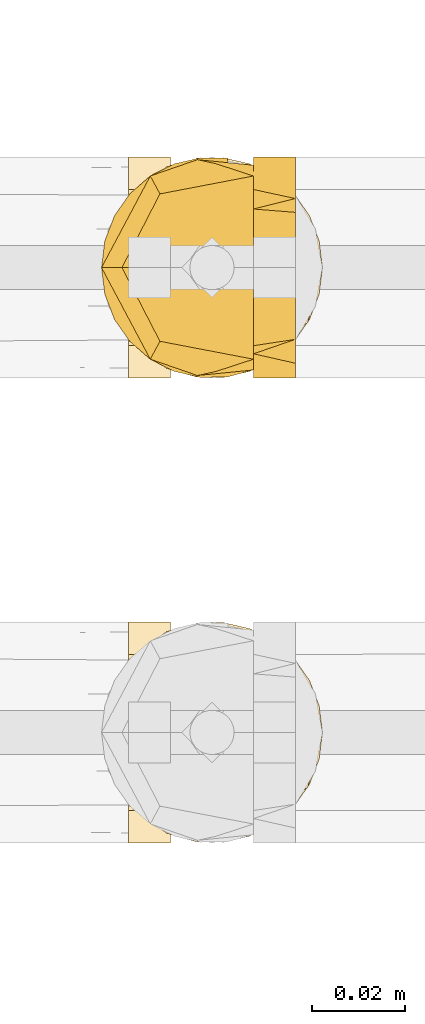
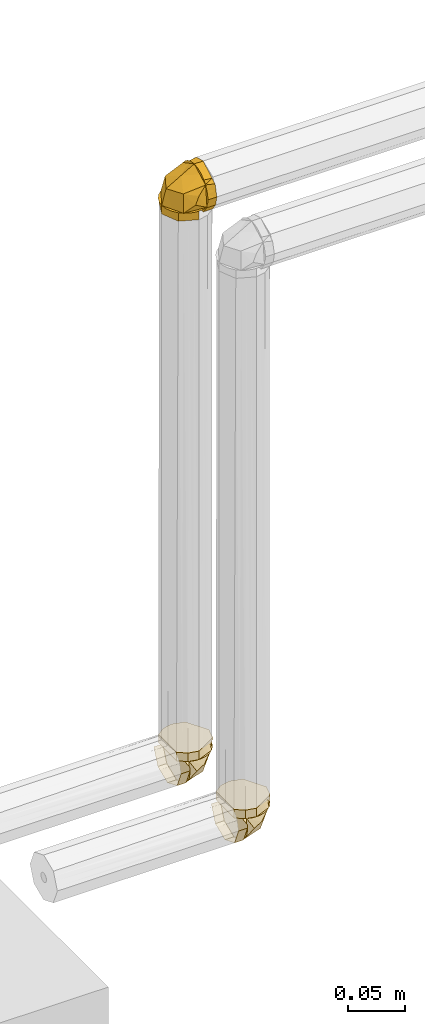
# One storey, part 325 of 652: 3 coverings.
"""IFC2X3 building model written with IfcOpenShell, lengths in millimetres."""

import ifcopenshell
import ifcopenshell.guid

model = None  # the IFC model being written
_history = None  # IfcOwnerHistory: only IFC2X3 demands one
_inside = {}  # id of a spatial element -> (the spatial element, [elements in it])
_under = {}  # id of a project, library or spatial element -> (it, [spatial elements below it])
_declared = {}  # id of a project -> (the project, [libraries it declares])
_typed = {}  # id of a type object -> (the type object, [elements of that type])
_made_of = {}  # id of a material, layer set ... -> (it, [elements and type objects made of it])


def new_model(schema):
    """Start an empty IFC model of exactly this schema.

    Asked for "IFC4X3", IfcOpenShell would pick the latest addendum, in which some entities
    have other attributes; the version numbers below select the first issue.
    IFC2X3 requires an IfcOwnerHistory on every rooted entity: one is made here for all.
    """
    global model, _history
    if schema == "IFC4X3":
        model = ifcopenshell.file(schema_version=(4, 3, 0, 0))
    else:
        model = ifcopenshell.file(schema=schema)
    _inside.clear()
    _under.clear()
    _declared.clear()
    _typed.clear()
    _made_of.clear()
    _history = None
    if model.schema == "IFC2X3":
        org = make("IfcOrganization", Name="unknown")
        user = make(
            "IfcPersonAndOrganization",
            ThePerson=make("IfcPerson", FamilyName="unknown"),
            TheOrganization=org,
        )
        app = make(
            "IfcApplication",
            ApplicationDeveloper=org,
            Version="unknown",
            ApplicationFullName="unknown",
            ApplicationIdentifier="unknown",
        )
        _history = make(
            "IfcOwnerHistory",
            OwningUser=user,
            OwningApplication=app,
            ChangeAction="ADDED",
            CreationDate=0,
        )
    return model


def make(cls, **values):
    """One entity of the class cls with the attributes given. An attribute that is None is left unset."""
    return model.create_entity(
        cls, **{name: value for name, value in values.items() if value is not None}
    )


def entity(cls, *values):
    """Any entity or typed value of the class cls, its attributes in the order of the schema. None: left unset."""
    e = model.create_entity(cls)
    for i, value in enumerate(values):
        if value is not None:
            e[i] = value
    return e


def rooted(cls, **values):
    """An entity with a GlobalId (a new one), such as an element, a storey or a relation."""
    return make(cls, GlobalId=ifcopenshell.guid.new(), OwnerHistory=_history, **values)


def si_unit(unit_type, name, prefix=None):
    """IfcSIUnit, for example si_unit("LENGTHUNIT", "METRE", prefix="MILLI")."""
    return make("IfcSIUnit", UnitType=unit_type, Prefix=prefix, Name=name)


def converted_unit(unit_type, name, factor, base, dimensions=None, offset=None):
    """IfcConversionBasedUnit, such as the inch: factor (a typed value) times the base unit."""
    return make(
        "IfcConversionBasedUnit"
        if offset is None
        else "IfcConversionBasedUnitWithOffset",
        ConversionOffset=offset,
        Dimensions=None
        if dimensions is None
        else entity("IfcDimensionalExponents", *dimensions),
        UnitType=unit_type,
        Name=name,
        ConversionFactor=make(
            "IfcMeasureWithUnit", ValueComponent=factor, UnitComponent=base
        ),
    )


def assignment(units):
    """IfcUnitAssignment: the units of a project."""
    return None if units is None else make("IfcUnitAssignment", Units=units)


def point(xyz):
    """IfcCartesianPoint."""
    return None if xyz is None else make("IfcCartesianPoint", Coordinates=xyz)


def direction(xyz):
    """IfcDirection."""
    return None if xyz is None else make("IfcDirection", DirectionRatios=xyz)


def frame(location, z_axis=None, x_axis=None):
    """IfcAxis2Placement3D, a coordinate frame: its origin and axes. An axis left out is left unset."""
    return make(
        "IfcAxis2Placement3D",
        Location=point(location),
        Axis=direction(z_axis),
        RefDirection=direction(x_axis),
    )


def origin():
    """The frame at (0, 0, 0) with its axes left unset."""
    return frame((0.0, 0.0, 0.0))


def place(relative_to, where):
    """IfcLocalPlacement: puts the frame where relative to a parent placement (None: the world)."""
    return make(
        "IfcLocalPlacement", PlacementRelTo=relative_to, RelativePlacement=where
    )


def context(
    kind, dimensions, precision=None, world=None, true_north=None, identifier=None
):
    """IfcGeometricRepresentationContext, for example the 3D "Model" context."""
    return make(
        "IfcGeometricRepresentationContext",
        ContextIdentifier=identifier,
        ContextType=kind,
        CoordinateSpaceDimension=dimensions,
        Precision=precision,
        WorldCoordinateSystem=world,
        TrueNorth=true_north,
    )


def subcontext(parent, identifier, kind, view, scale=None):
    """IfcGeometricRepresentationSubContext, for example "Body" below "Model"."""
    return make(
        "IfcGeometricRepresentationSubContext",
        ContextIdentifier=identifier,
        ContextType=kind,
        ParentContext=parent,
        TargetScale=scale,
        TargetView=view,
    )


def project(units=None, contexts=None):
    """IfcProject with its units and contexts."""
    return rooted(
        "IfcProject",
        Name="project",
        RepresentationContexts=contexts,
        UnitsInContext=assignment(units),
    )


def spatial(cls, under=None, at=None, **own):
    """A site, building, storey or space (cls), placed at a placement, below another one or the project."""
    s = rooted(cls, ObjectPlacement=at, **own)
    if under is not None:
        _under.setdefault(under.id(), (under, []))[1].append(s)
    return s


def faces_of(points, faces, orient=None, outer=None):
    """IfcFace entities. A face is a list of loops; a loop is a list of indices into points, from 0.

    orient and outer hold one flag for each loop. By default every Orientation is true, the
    first loop of a face is its IfcFaceOuterBound and the others are IfcFaceBound.
    """
    made = []
    for i, loops in enumerate(faces):
        bounds = []
        for j, loop in enumerate(loops):
            is_outer = j == 0 if outer is None else outer[i][j]
            bounds.append(
                make(
                    "IfcFaceOuterBound" if is_outer else "IfcFaceBound",
                    Bound=make("IfcPolyLoop", Polygon=[points[k] for k in loop]),
                    Orientation=True if orient is None else orient[i][j],
                )
            )
        made.append(make("IfcFace", Bounds=bounds))
    return made


def face_set(faces, orient=None, outer=None):
    """The faces of one IfcConnectedFaceSet. surface_model builds it on its shared points."""
    return ("IfcConnectedFaceSet", faces, orient, outer)


def surface_model(cls, points, shells):
    """IfcFaceBasedSurfaceModel or IfcShellBasedSurfaceModel (cls): surfaces that need not close."""
    shared = [point(p) for p in points]
    made = [make(c, CfsFaces=faces_of(shared, fs, o, b)) for c, fs, o, b in shells]
    if cls == "IfcFaceBasedSurfaceModel":
        return make(cls, FbsmFaces=made)
    return make(cls, SbsmBoundary=made)


def shape(context_of_items, identifier, shape_type, items):
    """IfcShapeRepresentation: the items that make up one representation, for example the "Body"."""
    return make(
        "IfcShapeRepresentation",
        ContextOfItems=context_of_items,
        RepresentationIdentifier=identifier,
        RepresentationType=shape_type,
        Items=items,
    )


def material(Name=None, Category=None):
    """IfcMaterial."""
    return make("IfcMaterial", Name=Name, Category=Category)


def made_of(thing, what):
    """Note that an element or type object is made of a material, layer set ...; save() writes the relation."""
    if what is not None:
        _made_of.setdefault(what.id(), (what, []))[1].append(thing)
    return thing


def type_object(cls, material=None, **own):
    """A type object (cls), such as IfcWallType, which elements share."""
    return made_of(rooted(cls, **own), material)


def element(
    cls,
    number,
    at=None,
    inside=None,
    cuts=None,
    type_object=None,
    material=None,
    context=None,
    identifier="Body",
    shape_type=None,
    held_by="IfcProductDefinitionShape",
    body=None,
    shapes=None,
    **own,
):
    """One element of the class cls, such as IfcWall. Its Tag is "e" and its number.

    at: its placement. inside: the storey or other place that contains it. cuts: it is an
    opening in that element (IfcRelVoidsElement). A single representation is given by context,
    identifier, shape_type and body (its items); several are given by shapes. held_by: the class
    of the entity that holds the representations. save() writes the other relations.
    """
    e = rooted(cls, Tag="e%d" % number, ObjectPlacement=at, **own)
    if body is not None:
        shapes = [shape(context, identifier, shape_type, body)]
    if shapes is not None:
        e.Representation = make(held_by, Representations=shapes)
    if inside is not None:
        _inside.setdefault(inside.id(), (inside, []))[1].append(e)
    if cuts is not None:
        rooted(
            "IfcRelVoidsElement", RelatingBuildingElement=cuts, RelatedOpeningElement=e
        )
    if type_object is not None:
        _typed.setdefault(type_object.id(), (type_object, []))[1].append(e)
    return made_of(e, material)


def aggregate(whole, parts):
    """IfcRelAggregates: a whole, such as a stair, and the parts it consists of."""
    return rooted("IfcRelAggregates", RelatingObject=whole, RelatedObjects=parts)


def save(model, path):
    """Write the relations noted so far, then the file.

    IfcRelAggregates (storeys below a building ...), IfcRelContainedInSpatialStructure (elements
    in a storey), IfcRelDefinesByType, IfcRelAssociatesMaterial and IfcRelDeclares: one each for
    every whole, place, type object, material and project.
    """
    for whole, parts in _under.values():
        aggregate(whole, parts)
    for where, things in _inside.values():
        rooted(
            "IfcRelContainedInSpatialStructure",
            RelatedElements=things,
            RelatingStructure=where,
        )
    for kind, things in _typed.values():
        rooted("IfcRelDefinesByType", RelatedObjects=things, RelatingType=kind)
    for what, things in _made_of.values():
        rooted("IfcRelAssociatesMaterial", RelatedObjects=things, RelatingMaterial=what)
    for by, libraries in _declared.values():
        rooted("IfcRelDeclares", RelatingContext=by, RelatedDefinitions=libraries)
    model.write(path)


model = new_model("IFC2X3")

# Units and contexts
model_context = context("Model", 3, precision=0.01, world=frame((0.0, 0.0, 308426.39999999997)), true_north=direction((6.123233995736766e-17, 1.0)))
plan_context = context("Plan", 3, precision=0.01, world=frame((0.0, 0.0, 308426.39999999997)), true_north=direction((6.123233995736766e-17, 1.0)))
body_context = subcontext(model_context, "Body", "Model", "MODEL_VIEW")
ifc_project = project(units=[si_unit("LENGTHUNIT", "METRE", prefix="MILLI"), si_unit("AREAUNIT", "SQUARE_METRE"), si_unit("VOLUMEUNIT", "CUBIC_METRE"), converted_unit("PLANEANGLEUNIT", "DEGREE", entity("IfcPlaneAngleMeasure", 0.017453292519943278), si_unit("PLANEANGLEUNIT", "RADIAN"), dimensions=[0, 0, 0, 0, 0, 0, 0])], contexts=[model_context, plan_context])

# Site, building, storey
site_placement = place(None, origin())
site = spatial("IfcSite", under=ifc_project, at=site_placement, Name="Default", CompositionType="ELEMENT")
building_placement = place(site_placement, origin())
building = spatial("IfcBuilding", under=site, at=building_placement, CompositionType="ELEMENT")
storey_placement = place(building_placement, frame((0.0, 0.0, 1730.6999999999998)))
storey = spatial("IfcBuildingStorey", under=building, at=storey_placement, Name="EG_Produktion_FFB", CompositionType="ELEMENT", Elevation=1730.6999999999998)

# Coverings
ifc_material = material(Name="Dämmung - Armaflex-Schlauch")
covering_type = type_object("IfcCoveringType", Name="Rohrdämmung außen:Armaflex-Schlauch", PredefinedType="INSULATION")
covering_1_placement = place(storey_placement, frame((41289.97326223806, 54966.678785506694, 2674.642227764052)))
element("IfcCovering", 1, at=covering_1_placement, inside=storey, type_object=covering_type, material=ifc_material, Name="Rohrdämmung außen:Armaflex-Schlauch", ObjectType="Rohrdämmung außen:Armaflex-Schlauch", PredefinedType="INSULATION", context=body_context, shape_type="SurfaceModel", body=[
    surface_model("IfcFaceBasedSurfaceModel", [(10.458420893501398, 47.37827577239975, 34.288272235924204), (10.458420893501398, 48.88520354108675, 28.691896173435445), (10.458420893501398, 48.99253247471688, 22.89717988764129), (10.458420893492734, 47.69387779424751, 17.248839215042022), (10.458420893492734, 45.066493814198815, 12.082882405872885), (10.458420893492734, 41.266678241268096, 7.706621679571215), (10.458420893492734, 36.520474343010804, 4.38039184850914), (10.458420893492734, 31.110224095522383, 2.3020635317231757), (10.458420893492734, 25.357772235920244, 1.595272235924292), (10.458420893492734, 19.605320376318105, 2.3020635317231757), (10.458420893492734, 14.195070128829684, 4.38039184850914), (10.458420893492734, 9.44886623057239, 7.706621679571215), (10.458420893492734, 5.649050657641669, 12.082882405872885), (10.458420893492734, 3.0216666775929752, 17.248839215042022), (10.458420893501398, 1.7230119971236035, 22.89717988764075), (10.458420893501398, 1.8303409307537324, 28.691896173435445), (10.458420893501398, 3.3372686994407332, 34.288272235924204), (16.054796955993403, 1.8303409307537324, 34.28827223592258), (21.849513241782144, 1.7230119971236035, 34.28827223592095), (27.4978539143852, 3.0216666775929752, 34.28827223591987), (32.6638107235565, 5.649050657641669, 34.28827223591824), (37.040071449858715, 9.44886623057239, 34.28827223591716), (40.36630128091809, 14.195070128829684, 34.28827223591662), (42.44462959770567, 19.605320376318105, 34.288272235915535), (43.151420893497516, 25.357772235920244, 34.288272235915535), (42.44462959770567, 31.110224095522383, 34.288272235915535), (40.36630128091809, 36.520474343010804, 34.28827223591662), (37.04007144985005, 41.266678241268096, 34.28827223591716), (32.6638107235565, 45.066493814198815, 34.28827223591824), (27.4978539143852, 47.69387779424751, 34.28827223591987), (21.849513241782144, 48.99253247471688, 34.28827223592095), (16.054796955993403, 48.88520354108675, 34.28827223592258), (25.36536080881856, 47.71668568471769, 26.166056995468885), (27.88148629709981, 41.21475697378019, 14.151674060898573), (21.43071725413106, 46.23770619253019, 34.28823564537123), (10.45929391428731, 35.09885121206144, 6.77828691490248), (26.80713326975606, 25.359910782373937, 5.975428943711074), (37.90878121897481, 35.210472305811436, 34.28823564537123), (35.60659616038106, 25.359910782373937, 21.22013795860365), (17.53793160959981, 48.57709828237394, 22.222983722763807), (10.45929391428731, 46.223753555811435, 23.18571565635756), (25.36536080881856, 2.998485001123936, 26.166056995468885), (17.53793160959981, 2.138072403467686, 22.222983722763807), (27.88148629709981, 9.500413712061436, 14.151674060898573), (10.45929391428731, 15.616319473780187, 6.77828691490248), (21.43071725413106, 4.4774644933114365, 34.28823564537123), (37.96924264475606, 15.616319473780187, 34.28823564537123), (34.97872750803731, 25.359910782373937, 20.13183229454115), (10.45929391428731, 4.491417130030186, 23.18571565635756), (1.4365888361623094, 49.12125111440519, 25.35767610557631), (10.45929391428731, 49.12125111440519, 25.35767610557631), (10.45929391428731, 42.15888539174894, 8.555213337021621), (1.4365888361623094, 42.15888539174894, 8.555213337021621), (10.45929391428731, 25.359910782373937, 1.5951730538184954), (1.4365888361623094, 25.359910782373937, 1.5951730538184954), (10.45929391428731, 8.556285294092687, 8.555213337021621), (1.4365888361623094, 8.556285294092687, 8.555213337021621), (10.45929391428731, 1.593919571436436, 25.35767610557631), (1.4365888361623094, 1.593919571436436, 25.35767610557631), (24.53365305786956, 4.565584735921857, 43.3080222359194), (29.67838522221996, 7.5358972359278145, 43.308022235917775), (34.82311738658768, 10.50620973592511, 43.30802223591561), (39.967849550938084, 13.476522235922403, 43.30802223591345), (41.55963522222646, 19.417147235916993, 43.30802223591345), (43.15142089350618, 25.357772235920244, 43.30802223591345), (40.181108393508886, 30.502504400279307, 43.30802223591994), (37.210795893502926, 35.6472365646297, 43.308022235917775), (34.240483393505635, 40.79196872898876, 43.30802223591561), (31.27017089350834, 45.936700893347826, 43.30802223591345), (25.32954589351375, 47.528486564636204, 43.30802223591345), (19.388920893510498, 49.12027223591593, 43.30802223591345), (14.510241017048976, 48.07242355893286, 43.308022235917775), (9.631561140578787, 47.024574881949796, 43.30802223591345), (5.6134166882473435, 44.06585567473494, 43.30802223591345), (1.5952722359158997, 41.10713646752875, 43.30802223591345), (1.5952722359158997, 9.608408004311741, 43.30802223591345), (5.6134166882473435, 6.649688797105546, 43.308022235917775), (9.631561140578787, 3.690969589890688, 43.30802223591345), (14.510241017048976, 2.643120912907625, 43.30802223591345), (19.388920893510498, 1.5952722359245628, 43.30802223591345), (36.19154578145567, 8.55514734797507, 34.2882722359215), (31.990889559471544, 6.81517856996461, 34.2882722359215), (27.790233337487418, 5.075209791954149, 34.2882722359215), (23.58957711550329, 3.335241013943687, 34.28827223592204), (19.388920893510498, 1.5952722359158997, 34.2882722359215), (14.510241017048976, 2.643120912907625, 34.2882722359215), (9.631561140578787, 3.690969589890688, 34.2882722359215), (5.50479750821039, 6.729669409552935, 34.2882722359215), (1.5952722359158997, 9.608408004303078, 34.2882722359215), (1.5952722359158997, 41.10713646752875, 34.2882722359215), (5.6134166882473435, 44.06585567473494, 34.2882722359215), (9.631561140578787, 47.024574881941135, 34.2882722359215), (14.642122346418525, 48.10074918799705, 34.2882722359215), (19.388920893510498, 49.12027223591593, 34.2882722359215), (23.58957711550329, 47.38030345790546, 34.2882722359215), (27.790233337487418, 45.64033467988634, 34.2882722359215), (31.990889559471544, 43.90036590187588, 34.2882722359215), (36.19154578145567, 42.160397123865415, 34.2882722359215), (37.93151455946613, 37.95974090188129, 34.2882722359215), (39.671483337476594, 33.759084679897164, 34.2882722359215), (41.41145211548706, 29.55842845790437, 34.2882722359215), (43.15142089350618, 25.357772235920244, 34.2882722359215), (41.41145211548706, 21.157116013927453, 34.2882722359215), (39.671483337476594, 16.956459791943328, 34.2882722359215), (37.93151455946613, 12.755803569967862, 34.2882722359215)], [face_set([[[0, 1, 2, 3, 4, 5, 6, 7, 8, 9, 10, 11, 12, 13, 14, 15]], [[16, 17, 18, 19, 20, 21, 22, 23, 24, 25, 26, 27, 28, 29, 30, 31]], [[32, 28, 33]], [[32, 34, 28]], [[33, 35, 4]], [[35, 33, 36]], [[36, 8, 35]], [[33, 37, 38]], [[39, 4, 40]], [[32, 33, 39]], [[34, 32, 0]], [[4, 39, 33]], [[38, 36, 33]], [[0, 32, 39]], [[33, 28, 37]], [[37, 24, 38]], [[0, 39, 40]], [[41, 16, 42]], [[43, 44, 36]], [[20, 45, 41]], [[46, 43, 47]], [[44, 8, 36]], [[12, 43, 42]], [[44, 43, 12]], [[42, 16, 48]], [[20, 43, 46]], [[16, 41, 45]], [[43, 41, 42]], [[43, 36, 47]], [[47, 24, 46]], [[20, 41, 43]], [[48, 12, 42]]]), face_set([[[49, 50, 51, 52]], [[53, 54, 52, 51]], [[54, 53, 55, 56]], [[57, 58, 56, 55]]]), face_set([[[59, 60, 61, 62, 63, 64, 65, 66, 67, 68, 69, 70, 71, 72, 73, 74, 75, 76, 77, 78, 79]], [[80, 81, 82, 83, 84, 85, 86, 87, 88, 89, 90, 91, 92, 93, 94, 95, 96, 97, 98, 99, 100, 101, 102, 103, 104]], [[75, 74, 89, 88]], [[71, 70, 93, 92, 91, 72]], [[73, 72, 91, 90, 89, 74]], [[96, 67, 97]], [[64, 100, 65]], [[100, 99, 65]], [[69, 95, 94]], [[94, 93, 70]], [[67, 96, 68]], [[66, 99, 98]], [[64, 101, 100]], [[99, 66, 65]], [[70, 69, 94]], [[98, 97, 67]], [[96, 95, 68]], [[69, 68, 95]], [[66, 98, 67]], [[104, 61, 80]], [[79, 83, 59]], [[83, 82, 59]], [[63, 103, 102]], [[102, 101, 64]], [[61, 104, 62]], [[60, 82, 81]], [[79, 84, 83]], [[82, 60, 59]], [[64, 63, 102]], [[81, 80, 61]], [[104, 103, 62]], [[63, 62, 103]], [[60, 81, 61]], [[76, 75, 88, 87, 86, 77]], [[78, 77, 86, 85, 84, 79]]])]),
])
covering_2_placement = place(storey_placement, frame((41284.00441089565, 54966.67878550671, 3280.611079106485)))
element("IfcCovering", 2, at=covering_2_placement, inside=storey, type_object=covering_type, material=ifc_material, Name="Rohrdämmung außen:Armaflex-Schlauch", ObjectType="Rohrdämmung außen:Armaflex-Schlauch", PredefinedType="INSULATION", context=body_context, shape_type="SurfaceModel", body=[
    surface_model("IfcFaceBasedSurfaceModel", [(34.28827223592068, 3.3372686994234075, 10.458420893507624), (28.691896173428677, 1.8303409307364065, 10.458420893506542), (22.897179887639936, 1.7230119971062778, 10.458420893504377), (17.248839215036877, 3.0216666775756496, 10.458420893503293), (12.082882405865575, 5.649050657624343, 10.45842089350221), (7.706621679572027, 9.448866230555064, 10.458420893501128), (4.380391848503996, 14.19507012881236, 10.458420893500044), (2.3020635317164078, 19.605320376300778, 10.458420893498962), (1.5952722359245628, 25.357772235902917, 10.458420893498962), (2.3020635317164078, 31.110224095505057, 10.458420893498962), (4.380391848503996, 36.520474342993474, 10.458420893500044), (7.706621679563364, 41.26667824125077, 10.458420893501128), (12.082882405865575, 45.06649381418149, 10.45842089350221), (17.248839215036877, 47.69387779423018, 10.458420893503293), (22.897179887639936, 48.99253247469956, 10.458420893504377), (28.691896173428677, 48.88520354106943, 10.458420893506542), (34.28827223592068, 47.37827577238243, 10.458420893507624), (34.28827223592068, 1.8303409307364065, 16.05479695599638), (34.28827223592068, 1.7230119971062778, 21.849513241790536), (34.28827223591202, 3.0216666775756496, 27.49785391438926), (34.28827223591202, 5.649050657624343, 32.6638107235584), (34.28827223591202, 9.448866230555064, 37.04007144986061), (34.28827223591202, 14.19507012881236, 40.366301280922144), (34.28827223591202, 19.605320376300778, 42.44462959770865), (34.28827223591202, 25.357772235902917, 43.151420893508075), (34.28827223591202, 31.110224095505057, 42.44462959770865), (34.28827223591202, 36.520474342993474, 40.366301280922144), (34.28827223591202, 41.26667824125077, 37.04007144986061), (34.28827223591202, 45.06649381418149, 32.66381072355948), (34.28827223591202, 47.69387779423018, 27.497853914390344), (34.28827223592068, 48.99253247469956, 21.849513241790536), (34.28827223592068, 48.88520354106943, 16.05479695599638), (26.167085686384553, 2.99848500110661, 25.365208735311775), (14.153865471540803, 9.50041371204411, 27.87959014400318), (34.28752025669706, 4.47746449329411, 21.43230926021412), (6.777571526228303, 15.61631947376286, 10.458560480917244), (5.977620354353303, 25.35991078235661, 26.80465575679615), (34.28752025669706, 15.504698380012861, 37.90746642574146), (21.218550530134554, 25.35991078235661, 35.606444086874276), (22.223140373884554, 2.13807240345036, 17.53836089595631), (23.185872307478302, 4.49141713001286, 10.458560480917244), (26.167085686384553, 47.71668568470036, 25.365208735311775), (22.223140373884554, 48.57709828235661, 17.53836089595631), (14.153865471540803, 41.21475697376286, 27.87959014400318), (6.777571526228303, 35.09885121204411, 10.458560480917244), (34.28752025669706, 46.23770619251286, 21.43230926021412), (34.28752025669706, 35.09885121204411, 37.96850921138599), (20.130244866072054, 25.35991078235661, 34.977994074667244), (23.185872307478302, 46.22375355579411, 10.458560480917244), (25.357832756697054, 1.5939195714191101, 1.4387622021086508), (25.357832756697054, 1.5939195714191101, 10.458560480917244), (8.554207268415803, 8.55628529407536, 10.458560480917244), (8.554207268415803, 8.55628529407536, 1.4387622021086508), (1.596492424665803, 25.35991078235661, 10.458560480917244), (1.596492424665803, 25.35991078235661, 1.4387622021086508), (8.554207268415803, 42.15888539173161, 10.458560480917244), (8.554207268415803, 42.15888539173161, 1.4387622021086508), (25.357832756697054, 49.12125111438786, 10.458560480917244), (25.357832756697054, 49.12125111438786, 1.4387622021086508), (43.30802223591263, 46.149959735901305, 24.533653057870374), (43.30802223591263, 43.179647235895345, 29.67838522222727), (43.30802223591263, 40.209334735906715, 34.823117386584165), (43.30802223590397, 37.239022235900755, 39.96784955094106), (43.30802223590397, 31.29839723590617, 41.55963522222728), (43.30802223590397, 25.357772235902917, 43.15142089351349), (43.30802223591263, 20.213040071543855, 40.18110839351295), (43.30802223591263, 15.068307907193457, 37.210795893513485), (43.30802223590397, 9.923575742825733, 34.240483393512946), (43.30802223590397, 4.7788435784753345, 31.270170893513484), (43.30802223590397, 3.1870579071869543, 25.32954589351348), (43.30802223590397, 1.5952722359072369, 19.38892089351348), (43.30802223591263, 2.6431209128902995, 14.510241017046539), (43.30802223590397, 3.6909695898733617, 9.631561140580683), (43.30802223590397, 6.64968879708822, 5.613416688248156), (43.30802223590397, 9.608408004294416, 1.595272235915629), (43.30802223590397, 41.10713646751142, 1.595272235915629), (43.30802223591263, 44.06585567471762, 5.613416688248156), (43.30802223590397, 47.02457488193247, 9.631561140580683), (43.30802223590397, 48.07242355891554, 14.510241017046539), (43.30802223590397, 49.1202722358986, 19.38892089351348), (34.28827223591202, 42.16039712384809, 36.19154578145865), (34.28827223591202, 43.90036590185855, 31.990889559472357), (34.28827223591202, 45.640334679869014, 27.790233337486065), (34.28827223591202, 47.3803034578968, 23.589577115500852), (34.28827223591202, 49.12027223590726, 19.38892089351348), (34.28827223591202, 48.07242355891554, 14.510241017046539), (34.28827223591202, 47.02457488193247, 9.6315611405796), (34.28827223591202, 43.98587506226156, 5.5047975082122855), (34.28827223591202, 41.107136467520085, 1.595272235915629), (34.28827223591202, 9.608408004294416, 1.595272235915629), (34.28827223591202, 6.64968879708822, 5.613416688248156), (34.28827223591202, 3.690969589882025, 9.6315611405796), (34.28827223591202, 2.614795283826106, 14.64212234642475), (34.28827223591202, 1.5952722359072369, 19.38892089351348), (34.28827223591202, 3.3352410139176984, 23.58957711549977), (34.28827223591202, 5.075209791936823, 27.790233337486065), (34.28827223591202, 6.815178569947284, 31.990889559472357), (34.28827223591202, 8.555147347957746, 36.19154578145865), (34.28827223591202, 12.755803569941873, 37.93151455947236), (34.28827223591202, 16.956459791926, 39.67148333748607), (34.28827223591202, 21.157116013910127, 41.41145211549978), (34.28827223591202, 25.357772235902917, 43.15142089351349), (34.28827223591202, 29.558428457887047, 41.41145211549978), (34.28827223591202, 33.759084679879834, 39.67148333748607), (34.28827223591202, 37.95974090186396, 37.93151455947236)], [face_set([[[0, 1, 2, 3, 4, 5, 6, 7, 8, 9, 10, 11, 12, 13, 14, 15]], [[16, 17, 18, 19, 20, 21, 22, 23, 24, 25, 26, 27, 28, 29, 30, 31]], [[32, 20, 33]], [[32, 34, 20]], [[33, 35, 4]], [[35, 33, 36]], [[36, 8, 35]], [[33, 37, 38]], [[39, 4, 40]], [[32, 33, 39]], [[34, 32, 0]], [[4, 39, 33]], [[38, 36, 33]], [[0, 32, 39]], [[33, 20, 37]], [[37, 24, 38]], [[0, 39, 40]], [[41, 16, 42]], [[43, 44, 36]], [[28, 45, 41]], [[46, 43, 47]], [[44, 8, 36]], [[12, 43, 42]], [[44, 43, 12]], [[42, 16, 48]], [[28, 43, 46]], [[16, 41, 45]], [[43, 41, 42]], [[43, 36, 47]], [[47, 24, 46]], [[28, 41, 43]], [[48, 12, 42]]]), face_set([[[49, 50, 51, 52]], [[53, 54, 52, 51]], [[54, 53, 55, 56]], [[57, 58, 56, 55]]]), face_set([[[59, 60, 61, 62, 63, 64, 65, 66, 67, 68, 69, 70, 71, 72, 73, 74, 75, 76, 77, 78, 79]], [[80, 81, 82, 83, 84, 85, 86, 87, 88, 89, 90, 91, 92, 93, 94, 95, 96, 97, 98, 99, 100, 101, 102, 103, 104]], [[75, 74, 89, 88]], [[71, 70, 93, 92, 91, 72]], [[73, 72, 91, 90, 89, 74]], [[96, 67, 97]], [[64, 100, 65]], [[100, 99, 65]], [[69, 95, 94]], [[94, 93, 70]], [[67, 96, 68]], [[66, 99, 98]], [[64, 101, 100]], [[99, 66, 65]], [[70, 69, 94]], [[98, 97, 67]], [[96, 95, 68]], [[69, 68, 95]], [[66, 98, 67]], [[104, 61, 80]], [[79, 83, 59]], [[83, 82, 59]], [[63, 103, 102]], [[102, 101, 64]], [[61, 104, 62]], [[60, 82, 81]], [[79, 84, 83]], [[82, 60, 59]], [[64, 63, 102]], [[81, 80, 61]], [[104, 103, 62]], [[63, 62, 103]], [[60, 81, 61]], [[76, 75, 88, 87, 86, 77]], [[78, 77, 86, 85, 84, 79]]])]),
])
covering_3_placement = place(storey_placement, frame((41289.97326223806, 54866.678785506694, 2674.6422277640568)))
element("IfcCovering", 3, at=covering_3_placement, inside=storey, type_object=covering_type, material=ifc_material, Name="Rohrdämmung außen:Armaflex-Schlauch", ObjectType="Rohrdämmung außen:Armaflex-Schlauch", PredefinedType="INSULATION", context=body_context, shape_type="SurfaceModel", body=[
    surface_model("IfcFaceBasedSurfaceModel", [(10.458420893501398, 47.37827577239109, 34.288272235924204), (10.458420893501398, 48.88520354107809, 28.691896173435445), (10.458420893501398, 48.99253247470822, 22.89717988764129), (10.458420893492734, 47.69387779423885, 17.248839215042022), (10.458420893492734, 45.06649381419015, 12.082882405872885), (10.458420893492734, 41.266678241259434, 7.706621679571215), (10.458420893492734, 36.52047434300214, 4.38039184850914), (10.458420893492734, 31.11022409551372, 2.3020635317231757), (10.458420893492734, 25.35777223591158, 1.595272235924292), (10.458420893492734, 19.605320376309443, 2.3020635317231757), (10.458420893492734, 14.19507012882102, 4.38039184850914), (10.458420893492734, 9.448866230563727, 7.706621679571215), (10.458420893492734, 5.649050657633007, 12.082882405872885), (10.458420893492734, 3.0216666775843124, 17.248839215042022), (10.458420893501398, 1.7230119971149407, 22.89717988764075), (10.458420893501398, 1.8303409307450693, 28.691896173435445), (10.458420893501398, 3.3372686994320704, 34.288272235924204), (16.054796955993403, 1.8303409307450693, 34.28827223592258), (21.849513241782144, 1.7230119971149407, 34.28827223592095), (27.4978539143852, 3.0216666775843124, 34.28827223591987), (32.6638107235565, 5.649050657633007, 34.28827223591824), (37.040071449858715, 9.448866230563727, 34.28827223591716), (40.36630128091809, 14.19507012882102, 34.28827223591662), (42.44462959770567, 19.605320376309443, 34.288272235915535), (43.151420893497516, 25.35777223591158, 34.288272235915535), (42.44462959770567, 31.11022409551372, 34.288272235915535), (40.36630128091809, 36.52047434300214, 34.28827223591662), (37.04007144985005, 41.266678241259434, 34.28827223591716), (32.6638107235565, 45.06649381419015, 34.28827223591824), (27.4978539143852, 47.69387779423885, 34.28827223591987), (21.849513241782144, 48.99253247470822, 34.28827223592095), (16.054796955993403, 48.88520354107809, 34.28827223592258), (25.36536080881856, 47.71813832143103, 26.166056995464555), (27.88148629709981, 41.21620961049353, 14.151674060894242), (21.43071725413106, 46.234507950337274, 34.288235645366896), (10.45929391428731, 35.095652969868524, 6.778286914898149), (26.80713326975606, 25.356712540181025, 5.975428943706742), (37.90878121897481, 35.211924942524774, 34.288235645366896), (35.60659616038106, 25.356712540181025, 21.22013795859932), (17.53793160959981, 48.57390004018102, 22.222983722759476), (10.45929391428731, 46.220555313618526, 23.185715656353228), (25.36536080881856, 2.9999376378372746, 26.166056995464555), (17.53793160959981, 2.1395250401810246, 22.222983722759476), (27.88148629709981, 9.497215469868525, 14.151674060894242), (10.45929391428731, 15.617772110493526, 6.778286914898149), (21.43071725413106, 4.478917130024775, 34.288235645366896), (37.96924264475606, 15.617772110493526, 34.288235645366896), (34.97872750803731, 25.356712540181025, 20.13183229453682), (10.45929391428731, 4.4928697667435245, 23.185715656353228), (1.4365888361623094, 49.118052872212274, 25.357676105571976), (10.45929391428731, 49.118052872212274, 25.357676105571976), (10.45929391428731, 42.16033802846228, 8.555213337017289), (1.4365888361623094, 42.16033802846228, 8.555213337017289), (10.45929391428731, 25.356712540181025, 1.595173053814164), (1.4365888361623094, 25.356712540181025, 1.595173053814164), (10.45929391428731, 8.553087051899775, 8.555213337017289), (1.4365888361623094, 8.553087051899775, 8.555213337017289), (10.45929391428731, 1.5953722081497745, 25.357676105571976), (1.4365888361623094, 1.5953722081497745, 25.357676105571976), (24.53365305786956, 4.565584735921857, 43.3080222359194), (29.67838522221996, 7.535897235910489, 43.308022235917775), (34.82311738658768, 10.506209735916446, 43.30802223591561), (39.967849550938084, 13.47652223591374, 43.30802223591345), (41.55963522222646, 19.417147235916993, 43.30802223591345), (43.15142089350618, 25.35777223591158, 43.30802223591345), (40.181108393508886, 30.50250440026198, 43.30802223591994), (37.210795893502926, 35.6472365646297, 43.308022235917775), (34.240483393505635, 40.7919687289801, 43.30802223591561), (31.27017089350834, 45.936700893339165, 43.30802223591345), (25.32954589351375, 47.52848656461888, 43.30802223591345), (19.388920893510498, 49.12027223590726, 43.30802223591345), (14.510241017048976, 48.0724235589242, 43.308022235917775), (9.631561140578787, 47.024574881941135, 43.30802223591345), (5.6134166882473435, 44.06585567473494, 43.30802223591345), (1.5952722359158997, 41.107136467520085, 43.30802223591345), (1.5952722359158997, 9.608408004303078, 43.30802223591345), (5.6134166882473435, 6.64968879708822, 43.308022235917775), (9.631561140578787, 3.690969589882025, 43.30802223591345), (14.510241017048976, 2.6431209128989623, 43.30802223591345), (19.388920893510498, 1.5952722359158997, 43.30802223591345), (36.19154578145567, 8.55514734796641, 34.2882722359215), (31.990889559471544, 6.815178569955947, 34.2882722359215), (27.790233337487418, 5.075209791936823, 34.2882722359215), (23.58957711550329, 3.3352410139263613, 34.28827223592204), (19.388920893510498, 1.5952722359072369, 34.2882722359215), (14.510241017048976, 2.6431209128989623, 34.2882722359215), (9.631561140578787, 3.690969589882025, 34.2882722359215), (5.50479750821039, 6.729669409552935, 34.2882722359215), (1.5952722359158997, 9.608408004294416, 34.2882722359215), (1.5952722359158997, 41.107136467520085, 34.2882722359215), (5.6134166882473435, 44.06585567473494, 34.2882722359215), (9.631561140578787, 47.02457488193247, 34.2882722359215), (14.642122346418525, 48.10074918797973, 34.2882722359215), (19.388920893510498, 49.12027223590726, 34.2882722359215), (23.58957711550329, 47.3803034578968, 34.2882722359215), (27.790233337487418, 45.64033467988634, 34.2882722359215), (31.990889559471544, 43.90036590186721, 34.2882722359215), (36.19154578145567, 42.160397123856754, 34.2882722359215), (37.93151455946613, 37.95974090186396, 34.2882722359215), (39.671483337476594, 33.759084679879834, 34.2882722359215), (41.41145211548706, 29.558428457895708, 34.2882722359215), (43.15142089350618, 25.35777223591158, 34.2882722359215), (41.41145211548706, 21.157116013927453, 34.2882722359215), (39.671483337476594, 16.956459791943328, 34.2882722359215), (37.93151455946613, 12.755803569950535, 34.2882722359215)], [face_set([[[0, 1, 2, 3, 4, 5, 6, 7, 8, 9, 10, 11, 12, 13, 14, 15]], [[16, 17, 18, 19, 20, 21, 22, 23, 24, 25, 26, 27, 28, 29, 30, 31]], [[32, 28, 33]], [[32, 34, 28]], [[33, 35, 4]], [[35, 33, 36]], [[36, 8, 35]], [[33, 37, 38]], [[39, 4, 40]], [[32, 33, 39]], [[34, 32, 0]], [[4, 39, 33]], [[38, 36, 33]], [[0, 32, 39]], [[33, 28, 37]], [[37, 24, 38]], [[0, 39, 40]], [[41, 16, 42]], [[43, 44, 36]], [[20, 45, 41]], [[46, 43, 47]], [[44, 8, 36]], [[12, 43, 42]], [[44, 43, 12]], [[42, 16, 48]], [[20, 43, 46]], [[16, 41, 45]], [[43, 41, 42]], [[43, 36, 47]], [[47, 24, 46]], [[20, 41, 43]], [[48, 12, 42]]]), face_set([[[49, 50, 51, 52]], [[53, 54, 52, 51]], [[54, 53, 55, 56]], [[57, 58, 56, 55]]]), face_set([[[59, 60, 61, 62, 63, 64, 65, 66, 67, 68, 69, 70, 71, 72, 73, 74, 75, 76, 77, 78, 79]], [[80, 81, 82, 83, 84, 85, 86, 87, 88, 89, 90, 91, 92, 93, 94, 95, 96, 97, 98, 99, 100, 101, 102, 103, 104]], [[75, 74, 89, 88]], [[71, 70, 93, 92, 91, 72]], [[73, 72, 91, 90, 89, 74]], [[96, 67, 97]], [[64, 100, 65]], [[100, 99, 65]], [[69, 95, 94]], [[94, 93, 70]], [[67, 96, 68]], [[66, 99, 98]], [[64, 101, 100]], [[99, 66, 65]], [[70, 69, 94]], [[98, 97, 67]], [[96, 95, 68]], [[69, 68, 95]], [[66, 98, 67]], [[104, 61, 80]], [[79, 83, 59]], [[83, 82, 59]], [[63, 103, 102]], [[102, 101, 64]], [[61, 104, 62]], [[60, 82, 81]], [[79, 84, 83]], [[82, 60, 59]], [[64, 63, 102]], [[81, 80, 61]], [[104, 103, 62]], [[63, 62, 103]], [[60, 81, 61]], [[76, 75, 88, 87, 86, 77]], [[78, 77, 86, 85, 84, 79]]])]),
])

save(model, "model.ifc")
